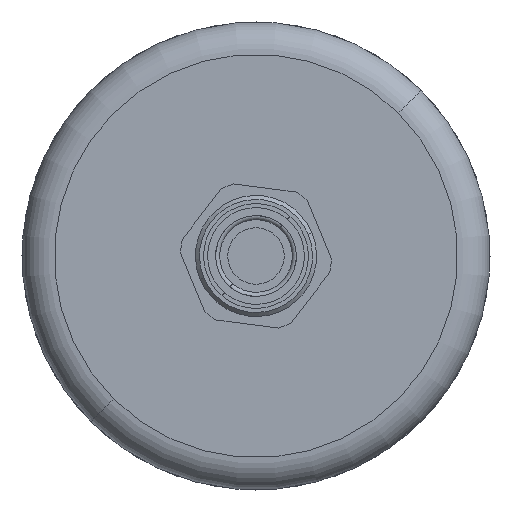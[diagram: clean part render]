
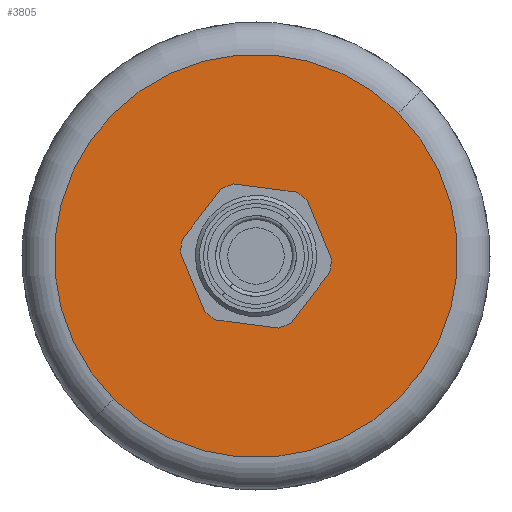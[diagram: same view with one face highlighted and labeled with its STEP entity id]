
A CAD part, left-side view. The second image highlights one B-rep face of the part: STEP entity #3805.
In plain terms, the highlighted planar face has unit normal (-1, 0, 0).
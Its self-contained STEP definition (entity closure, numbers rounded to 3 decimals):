
#93 = EDGE_CURVE ( 'NONE', #4076, #6995, #2408, .T. ) ;
#100 = CIRCLE ( 'NONE', #5539, 7.6 ) ;
#155 = CARTESIAN_POINT ( 'NONE',  ( -25., 5.366, -5.382 ) ) ;
#197 = CIRCLE ( 'NONE', #2396, 7.6 ) ;
#427 = AXIS2_PLACEMENT_3D ( 'NONE', #716, #3442, #2203 ) ;
#469 = CARTESIAN_POINT ( 'NONE',  ( -25., 0., 0. ) ) ;
#572 = DIRECTION ( 'NONE',  ( 0., 0.706, -0.708 ) ) ;
#716 = CARTESIAN_POINT ( 'NONE',  ( -25., 0., 0. ) ) ;
#743 = PLANE ( 'NONE',  #427 ) ;
#977 = VERTEX_POINT ( 'NONE', #3026 ) ;
#1735 = DIRECTION ( 'NONE',  ( -1., 0., 0. ) ) ;
#1774 = EDGE_LOOP ( 'NONE', ( #2474, #2223 ) ) ;
#1803 = EDGE_CURVE ( 'NONE', #977, #4933, #197, .T. ) ;
#1849 = EDGE_CURVE ( 'NONE', #6995, #4076, #7105, .T. ) ;
#2020 = CARTESIAN_POINT ( 'NONE',  ( -25., 0., 0. ) ) ;
#2175 = FACE_OUTER_BOUND ( 'NONE', #1774, .T. ) ;
#2203 = DIRECTION ( 'NONE',  ( 0., -0.706, 0.708 ) ) ;
#2223 = ORIENTED_EDGE ( 'NONE', *, *, #93, .T. ) ;
#2396 = AXIS2_PLACEMENT_3D ( 'NONE', #469, #4422, #572 ) ;
#2408 = CIRCLE ( 'NONE', #4416, 25. ) ;
#2474 = ORIENTED_EDGE ( 'NONE', *, *, #1849, .T. ) ;
#2639 = DIRECTION ( 'NONE',  ( 0., -0.706, 0.708 ) ) ;
#3026 = CARTESIAN_POINT ( 'NONE',  ( -25., -5.366, 5.382 ) ) ;
#3442 = DIRECTION ( 'NONE',  ( 1., 0., 0. ) ) ;
#3468 = CARTESIAN_POINT ( 'NONE',  ( -25., -17.653, 17.702 ) ) ;
#3481 = EDGE_CURVE ( 'NONE', #4933, #977, #100, .T. ) ;
#3645 = CARTESIAN_POINT ( 'NONE',  ( -25., 0., 0. ) ) ;
#3711 = CARTESIAN_POINT ( 'NONE',  ( -25., 0., 0. ) ) ;
#3744 = DIRECTION ( 'NONE',  ( -1., 0., 0. ) ) ;
#3805 = ADVANCED_FACE ( 'NONE', ( #6456, #2175 ), #743, .F. ) ;
#3817 = DIRECTION ( 'NONE',  ( 0., 0.706, -0.708 ) ) ;
#3912 = ORIENTED_EDGE ( 'NONE', *, *, #1803, .F. ) ;
#4076 = VERTEX_POINT ( 'NONE', #5570 ) ;
#4250 = AXIS2_PLACEMENT_3D ( 'NONE', #2020, #4776, #4451 ) ;
#4416 = AXIS2_PLACEMENT_3D ( 'NONE', #3645, #1735, #2639 ) ;
#4422 = DIRECTION ( 'NONE',  ( -1., 0., 0. ) ) ;
#4451 = DIRECTION ( 'NONE',  ( 0., -0.706, 0.708 ) ) ;
#4776 = DIRECTION ( 'NONE',  ( -1., 0., 0. ) ) ;
#4862 = EDGE_LOOP ( 'NONE', ( #4886, #3912 ) ) ;
#4886 = ORIENTED_EDGE ( 'NONE', *, *, #3481, .F. ) ;
#4933 = VERTEX_POINT ( 'NONE', #155 ) ;
#5539 = AXIS2_PLACEMENT_3D ( 'NONE', #3711, #3744, #3817 ) ;
#5570 = CARTESIAN_POINT ( 'NONE',  ( -25., 17.653, -17.702 ) ) ;
#6456 = FACE_BOUND ( 'NONE', #4862, .T. ) ;
#6995 = VERTEX_POINT ( 'NONE', #3468 ) ;
#7105 = CIRCLE ( 'NONE', #4250, 25. ) ;
